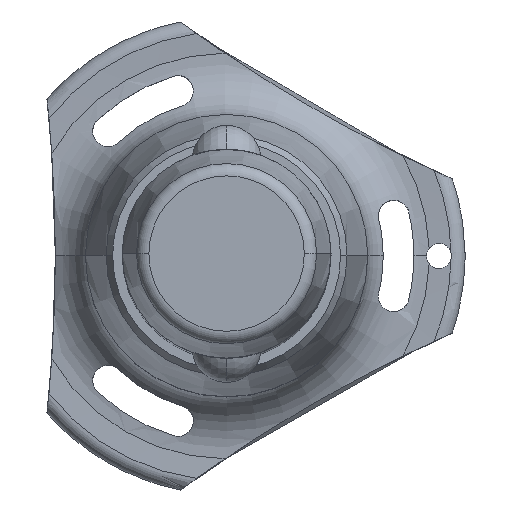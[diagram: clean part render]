
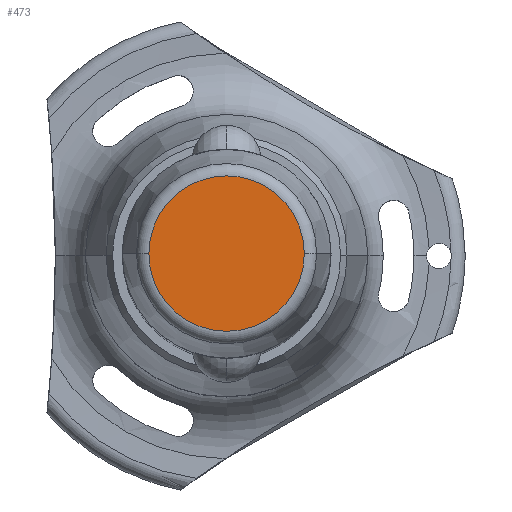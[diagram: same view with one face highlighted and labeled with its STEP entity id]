
A CAD part, top view. The second image highlights one B-rep face of the part: STEP entity #473.
In plain terms, the highlighted planar face has unit normal (0, 0, 1).
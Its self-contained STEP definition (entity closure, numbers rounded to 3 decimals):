
#143 = AXIS2_PLACEMENT_3D ( 'NONE', #2825, #339, #978 ) ;
#339 = DIRECTION ( 'NONE',  ( 0., 0., 1. ) ) ;
#403 = ORIENTED_EDGE ( 'NONE', *, *, #1931, .T. ) ;
#473 = ADVANCED_FACE ( 'NONE', ( #1022 ), #2139, .T. ) ;
#475 = CARTESIAN_POINT ( 'NONE',  ( -9.302, 0., 22. ) ) ;
#629 = AXIS2_PLACEMENT_3D ( 'NONE', #2321, #1430, #2092 ) ;
#668 = EDGE_LOOP ( 'NONE', ( #1180, #403 ) ) ;
#829 = DIRECTION ( 'NONE',  ( 0., 0., 1. ) ) ;
#851 = EDGE_CURVE ( 'NONE', #2724, #2868, #2805, .T. ) ;
#978 = DIRECTION ( 'NONE',  ( 1., 0., 0. ) ) ;
#1022 = FACE_OUTER_BOUND ( 'NONE', #668, .T. ) ;
#1034 = CARTESIAN_POINT ( 'NONE',  ( 9.302, 0., 22. ) ) ;
#1180 = ORIENTED_EDGE ( 'NONE', *, *, #851, .T. ) ;
#1400 = AXIS2_PLACEMENT_3D ( 'NONE', #1494, #829, #1701 ) ;
#1430 = DIRECTION ( 'NONE',  ( 0., 0., 1. ) ) ;
#1494 = CARTESIAN_POINT ( 'NONE',  ( 0., 0., 22. ) ) ;
#1701 = DIRECTION ( 'NONE',  ( 1., 0., 0. ) ) ;
#1931 = EDGE_CURVE ( 'NONE', #2868, #2724, #2102, .T. ) ;
#2092 = DIRECTION ( 'NONE',  ( 1., 0., 0. ) ) ;
#2102 = CIRCLE ( 'NONE', #1400, 9.302 ) ;
#2139 = PLANE ( 'NONE',  #143 ) ;
#2321 = CARTESIAN_POINT ( 'NONE',  ( 0., 0., 22. ) ) ;
#2724 = VERTEX_POINT ( 'NONE', #1034 ) ;
#2805 = CIRCLE ( 'NONE', #629, 9.302 ) ;
#2825 = CARTESIAN_POINT ( 'NONE',  ( 0., 0., 22. ) ) ;
#2868 = VERTEX_POINT ( 'NONE', #475 ) ;
